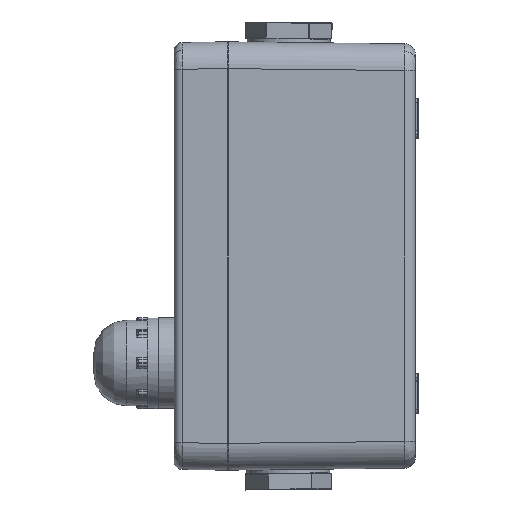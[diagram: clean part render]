
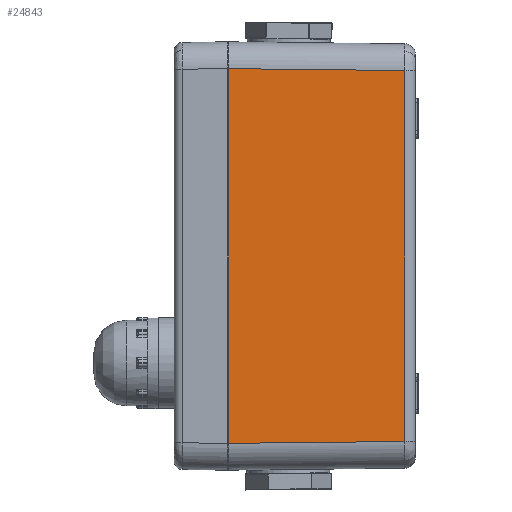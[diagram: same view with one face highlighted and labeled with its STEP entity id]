
A CAD part, left-side view. The second image highlights one B-rep face of the part: STEP entity #24843.
In plain terms, the highlighted planar face has unit normal (-1, -0.011, 0).
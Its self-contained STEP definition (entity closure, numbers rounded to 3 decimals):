
#1274=LINE('',#39463,#3232);
#1323=LINE('',#40146,#3281);
#1324=LINE('',#40147,#3282);
#1325=LINE('',#40148,#3283);
#3232=VECTOR('',#30139,139.949);
#3281=VECTOR('',#30252,66.049);
#3282=VECTOR('',#30253,138.566);
#3283=VECTOR('',#30254,66.049);
#5124=PLANE('',#26728);
#6817=FACE_OUTER_BOUND('',#8479,.T.);
#8479=EDGE_LOOP('',(#18051,#18052,#18053,#18054));
#11549=VERTEX_POINT('',#38256);
#11706=VERTEX_POINT('',#39461);
#11707=VERTEX_POINT('',#39462);
#11753=VERTEX_POINT('',#40145);
#14111=EDGE_CURVE('',#11706,#11707,#1274,.T.);
#14188=EDGE_CURVE('',#11707,#11753,#1323,.T.);
#14189=EDGE_CURVE('',#11753,#11549,#1324,.T.);
#14190=EDGE_CURVE('',#11549,#11706,#1325,.T.);
#18051=ORIENTED_EDGE('',*,*,#14188,.T.);
#18052=ORIENTED_EDGE('',*,*,#14189,.T.);
#18053=ORIENTED_EDGE('',*,*,#14190,.T.);
#18054=ORIENTED_EDGE('',*,*,#14111,.T.);
#24843=ADVANCED_FACE('',(#6817),#5124,.T.);
#26728=AXIS2_PLACEMENT_3D('',#40144,#30250,#30251);
#30139=DIRECTION('',(0.,0.,-1.));
#30250=DIRECTION('center_axis',(-1.,-0.01,
0.));
#30251=DIRECTION('ref_axis',(0.01,-1.,0.));
#30252=DIRECTION('',(0.01,-1.,0.01));
#30253=DIRECTION('',(0.,0.,1.));
#30254=DIRECTION('',(-0.01,1.,0.01));
#38256=CARTESIAN_POINT('',(-79.282,-66.542,69.283));
#39461=CARTESIAN_POINT('',(-79.974,-0.5,69.974));
#39462=CARTESIAN_POINT('',(-79.974,-0.5,-69.974));
#39463=CARTESIAN_POINT('',(-79.974,-0.5,-80.));
#40144=CARTESIAN_POINT('Origin',(-80.,2.,-80.));
#40145=CARTESIAN_POINT('',(-79.282,-66.542,-69.283));
#40146=CARTESIAN_POINT('',(-80.001,2.105,-70.002));
#40147=CARTESIAN_POINT('',(-79.282,-66.542,69.241));
#40148=CARTESIAN_POINT('',(-79.984,0.429,69.984));
